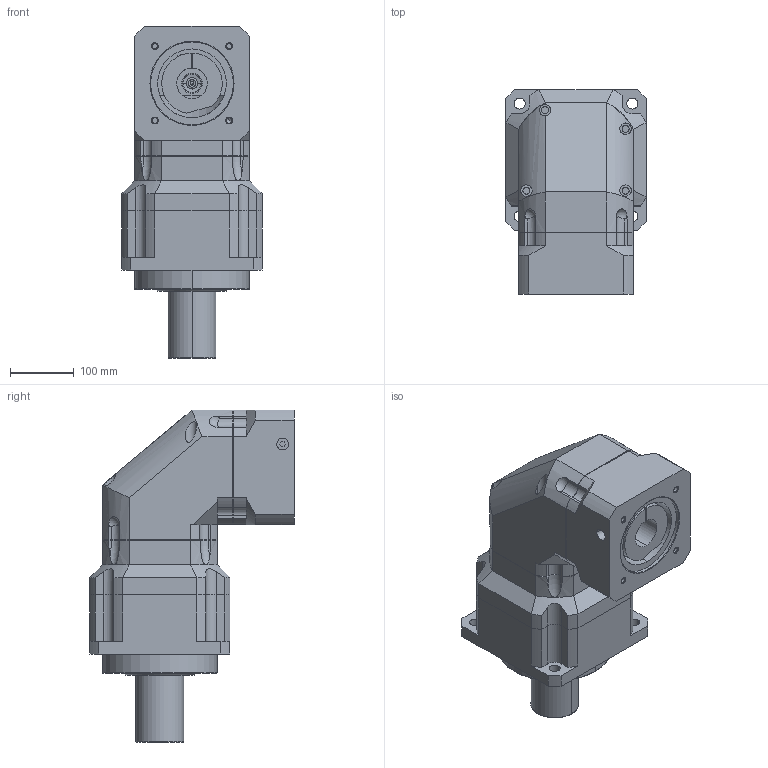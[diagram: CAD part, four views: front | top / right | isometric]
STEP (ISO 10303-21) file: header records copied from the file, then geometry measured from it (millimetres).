
FILE_DESCRIPTION((''),'2;1');
FILE_NAME('ABR2202-P4060103_ASM','2006-03-16T',('D00036'),(''),'PRO/ENGINEER BY PARAMETRIC TECHNOLOGY CORPORATION, 2001280','PRO/ENGINEER BY PARAMETRIC TECHNOLOGY CORPORATION, 2001280','');
FILE_SCHEMA(('CONFIG_CONTROL_DESIGN'));
Length unit declared in the file: millimetre
Products named in the file (5): AB2202_AF2; AB2202-1_AF1; PD060001; P4060103; ABR2202-P4060103_ASM
Assembly tree (4 placements, depth 2):
  ABR2202-P4060103_ASM
    AB2202_AF2
    AB2202-1_AF1
    PD060001
    P4060103
Bounding box: 220 x 321 x 521 mm (x, y, z)
Volume: 13737293.3 mm3; surface area: 827495.3 mm2
Topology: 5 solids, 16 shells, 491 faces, 1191 edges, 735 vertices
Faces by surface type: cylinder 185, plane 178, cone 96, torus 24, bspline 4, sphere 4
Entity records: 15166 total; most frequent: CARTESIAN_POINT 3361, DIRECTION 2598, ORIENTED_EDGE 2306, EDGE_CURVE 1177, AXIS2_PLACEMENT_3D 1023, VERTEX_POINT 735, VECTOR 552, LINE 552
